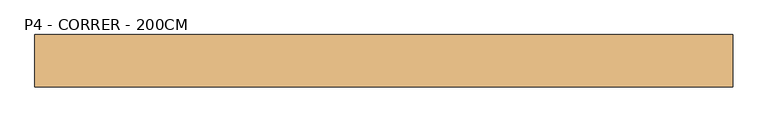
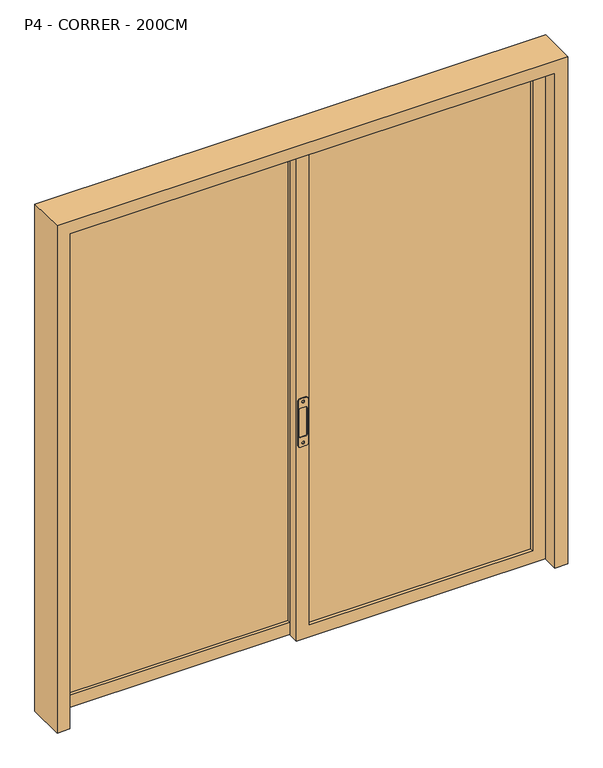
"""IFC4 building model written with IfcOpenShell, lengths in millimetres: door geometry, Porta de correr dupla envidraçada sem revestimento : P4 - CORRER - 200CM."""

from ifc_helpers import new_model, si_unit, point, frame, frame_2d, origin, place, context, project, spatial, polyline, circle_curve, trimmed, segment, composite_curve, outline, extrude, source, transform, mapped, element, save


def p4_correr_200cm_830b8f20(model_context):
    return source(origin(), model_context, "Body", "SweptSolid", [
        extrude(outline(composite_curve([segment(trimmed(circle_curve(frame_2d((990.0, -10.0)), 10.0), [point((1000.0, -10.0))], [point((990.0, -20.0))], False, "CARTESIAN"), True, "CONTINUOUS"), segment(polyline([(990.0, -20.0), (810.0, -20.0)]), True, "CONTINUOUS"), segment(trimmed(circle_curve(frame_2d((810.0, -10.0)), 10.0), [point((810.0, -20.0))], [point((800.0, -10.0))], False, "CARTESIAN"), True, "CONTINUOUS"), segment(polyline([(800.0, -10.0), (800.0, 10.0)]), True, "CONTINUOUS"), segment(trimmed(circle_curve(frame_2d((810.0, 10.0)), 10.0), [point((800.0, 10.0))], [point((810.0, 20.0))], False, "CARTESIAN"), True, "CONTINUOUS"), segment(polyline([(810.0, 20.0), (990.0, 20.0)]), True, "CONTINUOUS"), segment(trimmed(circle_curve(frame_2d((990.0, 10.0)), 10.0), [point((990.0, 20.0))], [point((1000.0, 10.0))], False, "CARTESIAN"), True, "CONTINUOUS"), segment(polyline([(1000.0, 10.0), (1000.0, -10.0)]), True, "CONTINUOUS")], self_intersect=False), holes=[composite_curve([segment(polyline([(960.0, -10.0), (960.0, 10.0)]), True, "CONTINUOUS"), segment(trimmed(circle_curve(frame_2d((955.0, 10.0)), 5.0), [point((960.0, 10.0))], [point((955.0, 15.0))], True, "CARTESIAN"), True, "CONTINUOUS"), segment(polyline([(955.0, 15.0), (845.0, 15.0)]), True, "CONTINUOUS"), segment(trimmed(circle_curve(frame_2d((845.0, 10.0)), 5.0), [point((845.0, 15.0))], [point((840.0, 10.0))], True, "CARTESIAN"), True, "CONTINUOUS"), segment(polyline([(840.0, 10.0), (840.0, -10.0)]), True, "CONTINUOUS"), segment(trimmed(circle_curve(frame_2d((845.0, -10.0)), 5.0), [point((840.0, -10.0))], [point((845.0, -15.0))], True, "CARTESIAN"), True, "CONTINUOUS"), segment(polyline([(845.0, -15.0), (955.0, -15.0)]), True, "CONTINUOUS"), segment(trimmed(circle_curve(frame_2d((955.0, -10.0)), 5.0), [point((955.0, -15.0))], [point((960.0, -10.0))], True, "CARTESIAN"), True, "CONTINUOUS")], self_intersect=False), composite_curve([segment(trimmed(circle_curve(frame_2d((985.0, 0.0)), 5.0), [point((985.0, -5.0))], [point((985.0, 5.0))], True, "CARTESIAN"), True, "CONTINUOUS"), segment(trimmed(circle_curve(frame_2d((985.0, 0.0)), 5.0), [point((985.0, 5.0))], [point((985.0, -5.0))], True, "CARTESIAN"), True, "CONTINUOUS")], self_intersect=False), composite_curve([segment(trimmed(circle_curve(frame_2d((815.0, 0.0)), 5.0), [point((815.0, -5.0))], [point((815.0, 5.0))], True, "CARTESIAN"), True, "CONTINUOUS"), segment(trimmed(circle_curve(frame_2d((815.0, 0.0)), 5.0), [point((815.0, 5.0))], [point((815.0, -5.0))], True, "CARTESIAN"), True, "CONTINUOUS")], self_intersect=False)]), frame((0.0, -13.0, 0.0), z_axis=(0.0, 1.0, 0.0), x_axis=(0.0, 0.0, 1.0)), (0.0, 0.0, 1.0), 3.0),
        extrude(outline(polyline([(2050.0, 25.0), (2050.0, -950.0), (0.0, -950.0), (0.0, 25.0), (2050.0, 25.0)]), holes=[polyline([(2000.0, -900.0), (2000.0, -25.0), (50.0, -25.0), (50.0, -900.0), (2000.0, -900.0)])]), frame((0.0, 35.0, 0.0), z_axis=(0.0, 1.0, 0.0), x_axis=(0.0, 0.0, 1.0)), (0.0, 0.0, 1.0), 40.0),
        extrude(outline(polyline([(2050.0, 950.0), (2050.0, -25.0), (0.0, -25.0), (0.0, 950.0), (2050.0, 950.0)]), holes=[polyline([(2000.0, 25.0), (2000.0, 900.0), (50.0, 900.0), (50.0, 25.0), (2000.0, 25.0)])]), frame((0.0, -10.0, 0.0), z_axis=(0.0, 1.0, 0.0), x_axis=(0.0, 0.0, 1.0)), (0.0, 0.0, 1.0), 40.0),
        extrude(outline(polyline([(0.0, 1000.0), (2100.0, 1000.0), (2100.0, -1000.0), (0.0, -1000.0), (0.0, -950.0), (2050.0, -950.0), (2050.0, 950.0), (0.0, 950.0), (0.0, 1000.0)])), frame((0.0, -75.0, 0.0), z_axis=(0.0, 1.0, 0.0), x_axis=(0.0, 0.0, 1.0)), (0.0, 0.0, 1.0), 150.0),
        extrude(outline(polyline([(-25.0, 48.0), (-900.0, 48.0), (-900.0, 62.0), (-25.0, 62.0), (-25.0, 48.0)])), frame((0.0, 0.0, 50.0), z_axis=(0.0, 0.0, 1.0), x_axis=(1.0, 0.0, 0.0)), (0.0, 0.0, 1.0), 1950.0),
        extrude(outline(polyline([(900.0, 3.0), (25.0, 3.0), (25.0, 17.0), (900.0, 17.0), (900.0, 3.0)])), frame((0.0, 0.0, 50.0), z_axis=(0.0, 0.0, 1.0), x_axis=(1.0, 0.0, 0.0)), (0.0, 0.0, 1.0), 1950.0),
        extrude(outline(polyline([(-900.0, 48.0), (-900.0, 62.0), (-25.0, 62.0), (-25.0, 48.0), (-900.0, 48.0)])), frame((0.0, 0.0, 50.0), z_axis=(0.0, 0.0, 1.0), x_axis=(1.0, 0.0, 0.0)), (0.0, 0.0, 1.0), 1950.0),
        extrude(outline(polyline([(900.0, 3.0), (25.0, 3.0), (25.0, 17.0), (900.0, 17.0), (900.0, 3.0)])), frame((0.0, 0.0, 50.0), z_axis=(0.0, 0.0, 1.0), x_axis=(1.0, 0.0, 0.0)), (0.0, 0.0, 1.0), 1950.0),
    ])


if __name__ == "__main__":
    model = new_model("IFC4")
    model_context = context("Model", 3, world=origin())
    ifc_project = project(units=[si_unit("LENGTHUNIT", "METRE", prefix="MILLI")], contexts=[model_context])
    site = spatial("IfcSite", under=ifc_project)
    building = spatial("IfcBuilding", under=site)
    placement = place(None, origin())
    p4_correr_200cm_shape = p4_correr_200cm_830b8f20(model_context)
    element("IfcDoor", 1, ObjectType="Porta de correr dupla envidraçada sem revestimento : P4 - CORRER - 200CM", at=placement, inside=building, context=model_context, shape_type="MappedRepresentation", body=[
        mapped(p4_correr_200cm_shape, transform((0.0, 0.0, 0.0), x_axis=(1.0, 0.0, 0.0), y_axis=(0.0, 1.0, 0.0), z_axis=(0.0, 0.0, 1.0))),
    ])
    save(model, "model.ifc")
